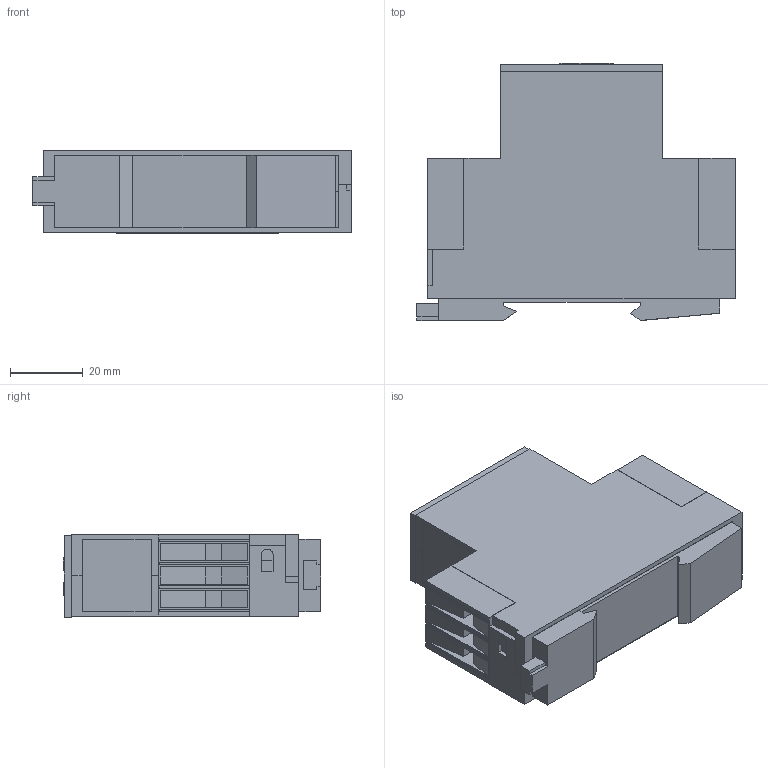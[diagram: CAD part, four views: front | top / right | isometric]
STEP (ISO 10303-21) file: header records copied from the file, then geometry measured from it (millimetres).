
FILE_DESCRIPTION (( 'STEP AP203' ), '1' );
FILE_NAME ('KR_GY200_1.STEP', '2017-02-13T16:35:17', ( '' ), ( '' ), 'SwSTEP 2.0', 'SolidWorks 2013', '' );
FILE_SCHEMA (( 'CONFIG_CONTROL_DESIGN' ));
Length unit declared in the file: millimetre
Products named in the file (8): klip_din; viko; KR_GY200_1; Nap_gy_1; zaklad_22_5; Zaslepka; Svorka_2; Krab_1
Assembly tree (10 placements, depth 3):
  KR_GY200_1
    zaklad_22_5
      Krab_1  x2
      viko
      klip_din
    Svorka_2  x2
    Zaslepka  x2
    Nap_gy_1
Bounding box: 87.8 x 70.9 x 22.89 mm (x, y, z)
Volume: 34128.6 mm3; surface area: 35273.4 mm2
Topology: 18 solids, 18 shells, 502 faces, 1344 edges, 896 vertices
Faces by surface type: plane 427, bspline 57, cylinder 18
Entity records: 14928 total; most frequent: CARTESIAN_POINT 5887, ORIENTED_EDGE 1800, DIRECTION 1414, EDGE_CURVE 900, VECTOR 752, LINE 752, VERTEX_POINT 600, EDGE_LOOP 362
